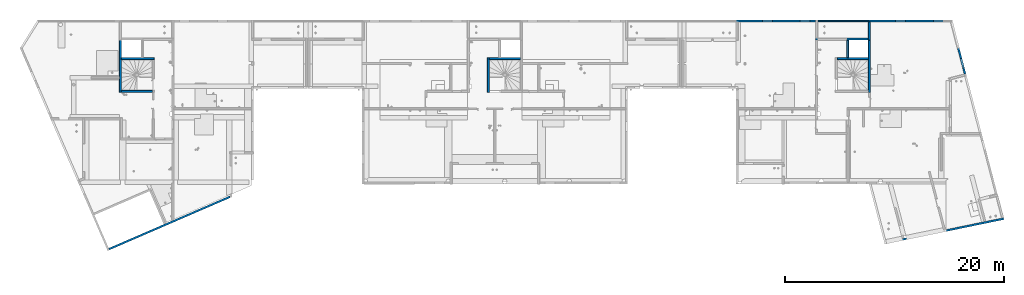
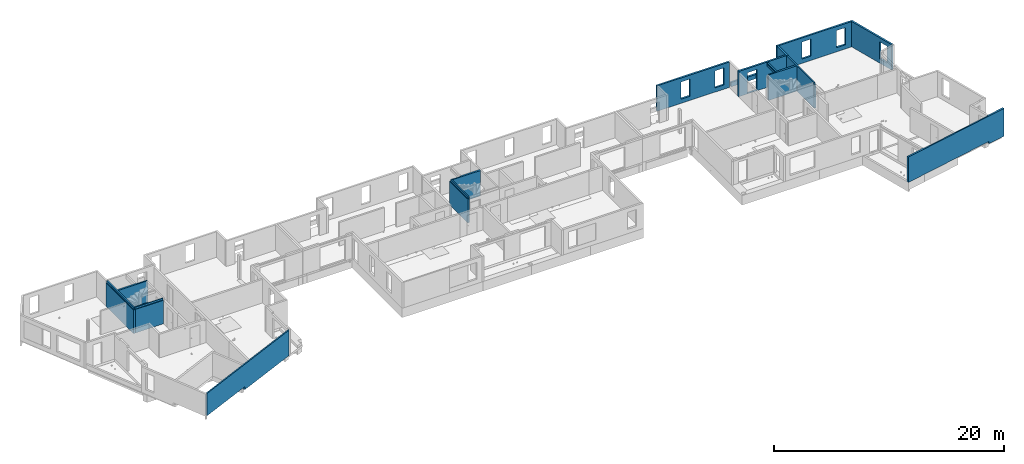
# One storey, part 19 of 34: 16 walls, 12 openings.
"""IFC2X3 building model written with IfcOpenShell, lengths in centimetres."""

from ifc_helpers import new_model, entity, si_unit, converted_unit, derived_unit, direction, frame, frame_2d, origin, origin_2d_with_axis, place, context, subcontext, project, spatial, polyline, rectangle, outline, extrude, clip, bounded_halfspace, faceted_brep, material, material_list, layer, layer_set, layer_usage, type_object, element, save


model = new_model("IFC2X3")

# Units and contexts
model_context = context("Model", 3, precision=0.001, world=origin(), true_north=direction((6.12303176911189e-17, 1.0)))
body_context = subcontext(model_context, "Body", "Model", "MODEL_VIEW")
ifc_project = project(units=[si_unit("LENGTHUNIT", "METRE", prefix="CENTI"), si_unit("AREAUNIT", "SQUARE_METRE"), si_unit("VOLUMEUNIT", "CUBIC_METRE"), converted_unit("PLANEANGLEUNIT", "DEGREE", entity("IfcRatioMeasure", 0.0174532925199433), si_unit("PLANEANGLEUNIT", "RADIAN"), dimensions=[0, 0, 0, 0, 0, 0, 0]), si_unit("MASSUNIT", "GRAM", prefix="KILO"), derived_unit("MASSDENSITYUNIT", [(si_unit("MASSUNIT", "GRAM", prefix="KILO"), 1), (si_unit("LENGTHUNIT", "METRE"), -3)]), si_unit("TIMEUNIT", "SECOND"), si_unit("FREQUENCYUNIT", "HERTZ"), si_unit("THERMODYNAMICTEMPERATUREUNIT", "DEGREE_CELSIUS"), derived_unit("THERMALTRANSMITTANCEUNIT", [(si_unit("MASSUNIT", "GRAM", prefix="KILO"), 1), (si_unit("THERMODYNAMICTEMPERATUREUNIT", "KELVIN"), -1), (si_unit("TIMEUNIT", "SECOND"), -3)]), derived_unit("VOLUMETRICFLOWRATEUNIT", [(si_unit("LENGTHUNIT", "METRE"), 3), (si_unit("TIMEUNIT", "SECOND"), -1)]), si_unit("ELECTRICCURRENTUNIT", "AMPERE"), si_unit("ELECTRICVOLTAGEUNIT", "VOLT"), si_unit("POWERUNIT", "WATT"), si_unit("FORCEUNIT", "NEWTON"), si_unit("ILLUMINANCEUNIT", "LUX"), si_unit("LUMINOUSFLUXUNIT", "LUMEN"), si_unit("LUMINOUSINTENSITYUNIT", "CANDELA"), derived_unit("USERDEFINED", [(si_unit("MASSUNIT", "GRAM", prefix="KILO"), -1), (si_unit("LENGTHUNIT", "METRE"), -2), (si_unit("TIMEUNIT", "SECOND"), 3), (si_unit("LUMINOUSFLUXUNIT", "LUMEN"), 1)]), derived_unit("LINEARVELOCITYUNIT", [(si_unit("LENGTHUNIT", "METRE"), 1), (si_unit("TIMEUNIT", "SECOND"), -1)]), si_unit("PRESSUREUNIT", "PASCAL"), derived_unit("USERDEFINED", [(si_unit("LENGTHUNIT", "METRE"), -2), (si_unit("MASSUNIT", "GRAM", prefix="KILO"), 1), (si_unit("TIMEUNIT", "SECOND"), -2)])], contexts=[model_context])

# Site, building, storey
site_placement = place(None, origin())
site = spatial("IfcSite", under=ifc_project, at=site_placement, Name="Default", CompositionType="ELEMENT")
building_placement = place(site_placement, origin())
building = spatial("IfcBuilding", under=site, at=building_placement, Name="CAGE 03", CompositionType="ELEMENT")
storey_placement = place(building_placement, frame((0.0, 0.0, 340.0)))
storey = spatial("IfcBuildingStorey", under=building, at=storey_placement, Name="R+1", CompositionType="ELEMENT", Elevation=340.0)

# Wall, openings
ifc_material_1 = material(Name="Béton, C25/30")
ifc_layer = layer(ifc_material_1, 18.0)
ifc_layer_set = layer_set([ifc_layer], Name="Mur de base:Voile BA 18")
ifc_layer_usage_1 = layer_usage(ifc_layer_set, "AXIS2", "NEGATIVE", 9.0)
wall_type_1 = type_object("IfcWallType", Name="Mur de base:Voile BA 18", PredefinedType="STANDARD", material=ifc_layer_set)
wall_1_placement = place(storey_placement, frame((11373.0570193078, 4801.46871667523, 0.0), z_axis=(0.0, 0.0, 1.0), x_axis=(-0.252679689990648, 0.967549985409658, 0.0)))
wall_1 = element("IfcWallStandardCase", 1, at=wall_1_placement, inside=storey, type_object=wall_type_1, material=ifc_layer_usage_1, Name="Mur de base:Voile BA 18", ObjectType="Mur de base:Voile BA 18", context=body_context, shape_type="SweptSolid", body=[
    extrude(outline(polyline([(506.348860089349, -9.0), (511.049634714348, 9.0), (492.445944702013, 9.0), (245.947052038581, 9.0), (0.0, 9.0), (0.0, -9.0), (241.246277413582, -9.0), (506.348860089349, -9.0)])), origin(), (0.0, 0.0, 1.0), 270.0),
])
opening_1_placement = place(wall_1_placement, origin())
element("IfcOpeningElement", 2, at=opening_1_placement, cuts=wall_1, Name="Mur de base:Voile BA 18", ObjectType="Recess", context=body_context, shape_type="SweptSolid", body=[
    extrude(rectangle(XDim=181.0, YDim=273.0, at=frame_2d((-2.1316282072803e-13, 0.0), x_axis=(0.0, 1.0))), frame((-854.500000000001, -9.0, 135.5), z_axis=(0.0, 1.0, 0.0), x_axis=(1.0, 0.0, 0.0)), (0.0, 0.0, 1.0), 1.99999999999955),
])
opening_2_placement = place(wall_1_placement, frame((-1771.9204648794, 12217.2347799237, 0.0), z_axis=(0.0, 0.0, 1.0), x_axis=(-0.252679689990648, -0.967549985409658, 0.0)))
element("IfcOpeningElement", 3, at=opening_2_placement, cuts=wall_1, Name="Mur de base:Voile BA 18", ObjectType="Opening", context=body_context, shape_type="SweptSolid", body=[
    extrude(rectangle(XDim=181.0, YDim=91.0000000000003, at=frame_2d((0.0, -2.16715534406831e-13), x_axis=(1.0, 0.0))), frame((11503.8252781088, 4939.48999217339, 135.5), z_axis=(-0.967549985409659, -0.252679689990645, 0.0), x_axis=(0.0, 0.0, 1.0)), (0.0, 0.0, 1.0), 304.8),
])

ifc_layer_usage_2 = layer_usage(ifc_layer_set, "AXIS2", "NEGATIVE", 9.0)
wall_2_placement = place(storey_placement, frame((11239.9179807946, 5284.66066607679, 0.0), z_axis=(0.0, 0.0, 1.0), x_axis=(-1.0, 0.0, 0.0)))
wall_2 = element("IfcWallStandardCase", 4, at=wall_2_placement, inside=storey, type_object=wall_type_1, material=ifc_layer_usage_2, Name="Mur de base:Voile BA 18", ObjectType="Mur de base:Voile BA 18", context=body_context, shape_type="SweptSolid", body=[
    extrude(outline(polyline([(749.552160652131, -9.0), (749.552160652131, 9.0), (740.552160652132, 9.0), (731.552160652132, 9.0), (63.5521606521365, 9.0), (0.0, 9.0), (4.70077462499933, -9.0), (63.5521606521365, -9.0), (740.552160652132, -9.0), (749.552160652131, -9.0)])), origin(), (0.0, 0.0, 1.0), 270.0),
])
opening_3_placement = place(wall_2_placement, origin())
element("IfcOpeningElement", 5, at=opening_3_placement, cuts=wall_2, Name="Mur de base:Voile BA 18", ObjectType="Recess", context=body_context, shape_type="SweptSolid", body=[
    extrude(rectangle(XDim=181.0, YDim=184.0, at=frame_2d((0.0, -5.6843418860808e-14), x_axis=(0.0, 1.0))), frame((246.55216065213, -9.0, 135.499999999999), z_axis=(0.0, 1.0, 0.0), x_axis=(1.0, 0.0, 0.0)), (0.0, 0.0, 1.0), 1.99999999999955),
])
opening_4_placement = place(wall_2_placement, frame((11239.9179807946, 5284.66066607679, 0.0), z_axis=(0.0, 0.0, 1.0), x_axis=(-1.0, 0.0, 0.0)))
element("IfcOpeningElement", 6, at=opening_4_placement, cuts=wall_2, Name="Mur de base:Voile BA 18", ObjectType="Opening", context=body_context, shape_type="SweptSolid", body=[
    extrude(rectangle(XDim=181.0, YDim=91.0000000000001, at=frame_2d((0.0, 0.0), x_axis=(0.0, 1.0))), frame((11130.8658201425, 5428.06066607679, 135.5), z_axis=(0.0, -1.0, 0.0), x_axis=(1.0, 0.0, 0.0)), (0.0, 0.0, 1.0), 304.8),
])
opening_5_placement = place(wall_2_placement, frame((11239.9179807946, 5284.66066607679, 0.0), z_axis=(0.0, 0.0, 1.0), x_axis=(-1.0, 0.0, 0.0)))
element("IfcOpeningElement", 7, at=opening_5_placement, cuts=wall_2, Name="Mur de base:Voile BA 18", ObjectType="Opening", context=body_context, shape_type="SweptSolid", body=[
    extrude(rectangle(XDim=181.0, YDim=90.9999999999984, at=frame_2d((-8.66862137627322e-13, 0.0), x_axis=(0.0, 1.0))), frame((10785.8658201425, 5428.06066607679, 135.5), z_axis=(0.0, -1.0, 0.0), x_axis=(1.0, 0.0, 0.0)), (0.0, 0.0, 1.0), 304.8),
])

# Wall
ifc_layer_usage_3 = layer_usage(ifc_layer_set, "AXIS2", "POSITIVE", -9.0)
wall_3_placement = place(storey_placement, frame((10499.3658201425, 5275.66066607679, 0.0), z_axis=(0.0, 0.0, 1.0), x_axis=(0.0, -1.0, 0.0)))
element("IfcWallStandardCase", 8, at=wall_3_placement, inside=storey, type_object=wall_type_1, material=ifc_layer_usage_3, Name="Mur de base:Voile BA 18", ObjectType="Mur de base:Voile BA 18", context=body_context, shape_type="SweptSolid", body=[
    extrude(rectangle(XDim=164.999999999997, YDim=17.9999999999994, at=frame_2d((82.4999999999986, 1.11022302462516e-13), x_axis=(-1.0, 0.0))), origin(), (0.0, 0.0, 1.0), 270.0),
])

# Wall, openings
ifc_layer_usage_4 = layer_usage(ifc_layer_set, "AXIS2", "POSITIVE", -9.0)
wall_4_placement = place(storey_placement, frame((10010.3658201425, 5284.66066607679, 0.0), z_axis=(0.0, 0.0, 1.0), x_axis=(-1.0, 0.0, 0.0)))
wall_4 = element("IfcWallStandardCase", 9, at=wall_4_placement, inside=storey, type_object=wall_type_1, material=ifc_layer_usage_4, Name="Mur de base:Voile BA 18", ObjectType="Mur de base:Voile BA 18", context=body_context, shape_type="SweptSolid", body=[
    extrude(rectangle(XDim=726.0, YDim=17.9999999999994, at=frame_2d((363.0, -3.64153152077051e-14), x_axis=(-1.0, 0.0))), origin(), (0.0, 0.0, 1.0), 270.0),
])
opening_6_placement = place(wall_4_placement, origin())
element("IfcOpeningElement", 10, at=opening_6_placement, cuts=wall_4, Name="Mur de base:Voile BA 18", ObjectType="Recess", context=body_context, shape_type="SweptSolid", body=[
    extrude(rectangle(XDim=181.0, YDim=184.0, at=frame_2d((0.0, 5.6843418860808e-14), x_axis=(0.0, 1.0))), frame((235.0, -9.0, 135.5), z_axis=(0.0, 1.0, 0.0), x_axis=(1.0, 0.0, 0.0)), (0.0, 0.0, 1.0), 1.99999999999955),
])
opening_7_placement = place(wall_4_placement, frame((10010.3658201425, 5284.66066607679, 0.0), z_axis=(0.0, 0.0, 1.0), x_axis=(-1.0, 0.0, 0.0)))
element("IfcOpeningElement", 11, at=opening_7_placement, cuts=wall_4, Name="Mur de base:Voile BA 18", ObjectType="Opening", context=body_context, shape_type="SweptSolid", body=[
    extrude(rectangle(XDim=181.0, YDim=90.9999999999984, at=frame_2d((8.66862137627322e-13, 0.0), x_axis=(0.0, 1.0))), frame((9912.86582014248, 5428.06066607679, 135.5), z_axis=(0.0, -1.0, 0.0), x_axis=(1.0, 0.0, 0.0)), (0.0, 0.0, 1.0), 304.8),
])
opening_8_placement = place(wall_4_placement, frame((10010.3658201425, 5284.66066607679, 0.0), z_axis=(0.0, 0.0, 1.0), x_axis=(-1.0, 0.0, 0.0)))
element("IfcOpeningElement", 12, at=opening_8_placement, cuts=wall_4, Name="Mur de base:Voile BA 18", ObjectType="Opening", context=body_context, shape_type="SweptSolid", body=[
    extrude(rectangle(XDim=181.0, YDim=90.9999999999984, at=frame_2d((8.66862137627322e-13, 0.0), x_axis=(0.0, 1.0))), frame((9568.86582014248, 5428.06066607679, 135.5), z_axis=(0.0, -1.0, 0.0), x_axis=(1.0, 0.0, 0.0)), (0.0, 0.0, 1.0), 304.8),
])

ifc_layer_usage_5 = layer_usage(ifc_layer_set, "AXIS2", "POSITIVE", -9.0)
wall_5_placement = place(storey_placement, frame((10490.3658201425, 5119.66066607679, 0.0), z_axis=(0.0, 0.0, 1.0), x_axis=(-1.0, 0.0, 0.0)))
wall_5 = element("IfcWallStandardCase", 13, at=wall_5_placement, inside=storey, type_object=wall_type_1, material=ifc_layer_usage_5, Name="Mur de base:Voile BA 18", ObjectType="Mur de base:Voile BA 18", context=body_context, shape_type="SweptSolid", body=[
    extrude(rectangle(XDim=480.0, YDim=17.9999999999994, at=frame_2d((240.0, -1.90958360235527e-13), x_axis=(-1.0, 0.0))), origin(), (0.0, 0.0, 1.0), 270.0),
])
opening_9_placement = place(wall_5_placement, origin())
element("IfcOpeningElement", 14, at=opening_9_placement, cuts=wall_5, Name="Mur de base:Voile BA 18", ObjectType="Opening", context=body_context, shape_type="SweptSolid", body=[
    extrude(rectangle(XDim=227.0, YDim=17.9999999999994, at=frame_2d((0.0, 0.0), x_axis=(0.0, 1.0))), frame((189.0, 9.0, 113.5), z_axis=(0.0, 1.0, 0.0), x_axis=(-1.0, 0.0, 0.0)), (0.0, 0.0, 1.0), 160.0),
])
opening_10_placement = place(wall_5_placement, frame((10490.3658201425, 5119.66066607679, 0.0), z_axis=(0.0, 0.0, 1.0), x_axis=(-1.0, 0.0, 0.0)))
element("IfcOpeningElement", 15, at=opening_10_placement, cuts=wall_5, Name="Mur de base:Voile BA 18", ObjectType="Opening", context=body_context, shape_type="SweptSolid", body=[
    extrude(rectangle(XDim=221.0, YDim=95.0000000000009, at=frame_2d((8.66862137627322e-13, -5.6843418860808e-14), x_axis=(0.0, 1.0))), frame((10145.8658201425, 5263.06066607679, 115.5), z_axis=(0.0, -1.0, 0.0), x_axis=(1.0, 0.0, 0.0)), (0.0, 0.0, 1.0), 304.8),
])

# Wall, opening
ifc_layer_usage_6 = layer_usage(ifc_layer_set, "AXIS2", "NEGATIVE", 9.0)
wall_6_placement = place(storey_placement, frame((10301.3658201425, 5110.66066607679, 227.0), z_axis=(0.0, 0.0, 1.0), x_axis=(0.0, -1.0, 0.0)))
wall_6 = element("IfcWallStandardCase", 16, at=wall_6_placement, inside=storey, type_object=wall_type_1, material=ifc_layer_usage_6, Name="Mur de base:Voile BA 18", ObjectType="Mur de base:Voile BA 18", context=body_context, shape_type="Clipping", body=[
    clip(clip(extrude(rectangle(XDim=160.000000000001, YDim=17.9999999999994, at=frame_2d((80.0000000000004, 0.0), x_axis=(-1.0, 0.0))), origin(), (0.0, 0.0, 1.0), 36.0), bounded_halfspace(frame((160.0, -6.0, 23.0), z_axis=(0.0, 0.0, -1.0), x_axis=(-1.0, 0.0, 0.0)), True, frame((160.0, -6.0, 23.0), z_axis=(0.0, 0.0, -1.0), x_axis=(-1.0, 0.0, 0.0)), polyline([(0.0, 0.0), (0.0, -3.0), (160.0, -3.0), (160.0, 0.0), (0.0, 0.0)]))), bounded_halfspace(frame((0.0, -6.0, 23.0), z_axis=(0.0, 1.0, 0.0), x_axis=(0.0, 0.0, 1.0)), True, frame((0.0, -6.0, 23.0), z_axis=(0.0, 1.0, 0.0), x_axis=(0.0, 0.0, 1.0)), polyline([(0.0, 0.0), (13.0, 0.0), (13.0, 160.0), (0.0, 160.0), (0.0, 0.0)]))),
])
opening_11_placement = place(wall_6_placement, frame((5110.66066607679, -10301.3658201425, -227.0), z_axis=(0.0, 0.0, 1.0), x_axis=(0.0, 1.0, 0.0)))
element("IfcOpeningElement", 17, at=opening_11_placement, cuts=wall_6, Name="Mur de base:Voile BA 18", ObjectType="Opening", context=body_context, shape_type="SweptSolid", body=[
    extrude(rectangle(XDim=227.0, YDim=160.0, at=frame_2d((0.0, 0.0), x_axis=(0.0, 1.0))), frame((10157.9658201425, 5030.66066607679, 113.5), z_axis=(1.0, 0.0, 0.0), x_axis=(0.0, 1.0, 0.0)), (0.0, 0.0, 1.0), 304.8),
])

ifc_layer_usage_7 = layer_usage(ifc_layer_set, "AXIS2", "NEGATIVE", 9.0)
wall_7_placement = place(storey_placement, frame((10028.3658201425, 5284.66066607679, 0.0)))
wall_7 = element("IfcWallStandardCase", 18, at=wall_7_placement, inside=storey, type_object=wall_type_1, material=ifc_layer_usage_7, Name="Mur de base:Voile BA 18", ObjectType="Mur de base:Voile BA 18", context=body_context, shape_type="SweptSolid", body=[
    extrude(rectangle(XDim=462.000000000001, YDim=17.9999999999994, at=frame_2d((231.0, 2.99316127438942e-13), x_axis=(-1.0, 0.0))), origin(), (0.0, 0.0, 1.0), 45.0),
])
opening_12_placement = place(wall_7_placement, origin())
element("IfcOpeningElement", 19, at=opening_12_placement, cuts=wall_7, Name="Mur de base:Voile BA 18", ObjectType="Recess", context=body_context, shape_type="SweptSolid", body=[
    extrude(rectangle(XDim=181.0, YDim=184.0, at=origin_2d_with_axis()), frame((-253.0, 7.0, 135.5), z_axis=(0.0, 1.0, 0.0), x_axis=(0.0, 0.0, -1.0)), (0.0, 0.0, 1.0), 1.99999999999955),
])

# Walls
ifc_material_2 = material(Name="Béton, panneaux préfa 30/37")
ifc_material_list_1 = material_list([ifc_material_2, ifc_material_1, ifc_material_2])
wall_type_2 = type_object("IfcWallType", Name="Mur de base:premur 18", PredefinedType="NOTDEFINED")
wall_8_placement = place(storey_placement, frame((3672.36582014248, 4941.66066607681, 0.0)))
element("IfcWall", 20, at=wall_8_placement, inside=storey, type_object=wall_type_2, material=ifc_material_list_1, Name="Mur de base:premur 18", ObjectType="Mur de base:premur 18", context=body_context, shape_type="Brep", body=[
    faceted_brep([(0.0, -9.0, 0.0), (282.0, -9.0, 0.0), (294.500000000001, -9.0, 0.0), (300.0, -9.0, 0.0), (300.0, -9.0, 250.0), (294.5, -9.0, 250.0), (294.5, -9.0, 270.0), (282.0, -9.0, 270.0), (0.0, -9.0, 270.0), (300.0, 9.0, 0.0), (195.0, 9.0, 0.0), (0.0, 9.0, 0.0), (0.0, 9.0, 270.0), (195.0, 9.0, 270.0), (195.0, 9.0, 250.0), (300.0, 9.0, 250.0), (294.5, 3.50000000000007, 270.0), (195.0, 3.50000000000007, 270.0), (195.0, 3.50000000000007, 250.0), (294.5, 3.50000000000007, 250.0)], [[[0, 1, 2, 3, 4, 5, 6, 7, 8]], [[9, 10, 11, 12, 13, 14, 15]], [[3, 2, 1, 0, 11, 10, 9]], [[12, 8, 7, 6, 16, 17, 13]], [[3, 9, 15, 4]], [[0, 8, 12, 11]], [[18, 19, 5, 4, 15, 14]], [[19, 18, 17, 16]], [[19, 16, 6, 5]], [[17, 18, 14, 13]]]),
])
ifc_material_list_2 = material_list([ifc_material_2, ifc_material_1, ifc_material_2])
wall_9_placement = place(storey_placement, frame((3663.36582014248, 5110.66066607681, 0.0), z_axis=(0.0, 0.0, 1.0), x_axis=(0.0, -1.0, 0.0)))
element("IfcWall", 21, at=wall_9_placement, inside=storey, type_object=wall_type_2, material=ifc_material_list_2, Name="Mur de base:premur 18", ObjectType="Mur de base:premur 18", context=body_context, shape_type="Brep", body=[
    faceted_brep([(0.0, -9.0, 0.0), (178.0, -9.0, 0.0), (335.5, -9.0, 0.0), (351.5, -9.0, 0.0), (472.5, -9.0, 0.0), (478.0, -9.0, 0.0), (478.0, -9.0, 250.0), (351.5, -9.0, 250.0), (335.500000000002, -9.0, 250.0), (312.500000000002, -9.0, 250.0), (0.0, -9.0, 250.0), (478.0, 9.0, 0.0), (472.5, 9.0, 0.0), (460.0, 9.0, 0.0), (178.0, 9.0, 0.0), (160.0, 9.0, 0.0), (0.0, 9.0, 0.0), (0.0, 9.0, 270.0), (160.0, 9.0, 270.0), (178.0, 9.0, 270.0), (460.0, 9.0, 270.0), (472.5, 9.0, 270.0), (472.5, 9.0, 250.0), (478.0, 9.0, 250.0), (0.0, -3.50000000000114, 0.0), (0.0, -3.50000000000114, 270.0), (472.5, -3.50000000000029, 270.0), (0.0, -3.50000000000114, 250.0), (472.5, -3.50000000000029, 250.0)], [[[0, 1, 2, 3, 4, 5, 6, 7, 8, 9, 10]], [[11, 12, 13, 14, 15, 16, 17, 18, 19, 20, 21, 22, 23]], [[5, 4, 3, 2, 1, 0, 24, 16, 15, 14, 13, 12, 11]], [[21, 20, 19, 18, 17, 25, 26]], [[5, 11, 23, 6]], [[17, 16, 24, 0, 10, 27, 25]], [[28, 27, 10, 9, 8, 7, 6, 23, 22]], [[26, 28, 22, 21]], [[27, 28, 26, 25]]]),
])
ifc_material_list_3 = material_list([ifc_material_2, ifc_material_1, ifc_material_2])
wall_10_placement = place(storey_placement, frame((3672.36582014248, 4641.66066607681, 0.0)))
element("IfcWall", 22, at=wall_10_placement, inside=storey, type_object=wall_type_2, material=ifc_material_list_3, Name="Mur de base:premur 18", ObjectType="Mur de base:premur 18", context=body_context, shape_type="Brep", body=[
    faceted_brep([(0.0, -9.0, 0.0), (282.0, -9.0, 0.0), (282.0, -9.0, 250.0), (0.0, -9.0, 250.0), (282.0, 9.0, 0.0), (141.0, 9.0, 0.0), (0.0, 9.0, 0.0), (0.0, 9.0, 270.0), (141.0, 9.0, 270.0), (141.0, 9.0, 250.0), (282.0, 9.0, 250.0), (282.0, 9.0, 210.0), (0.0, -3.50000000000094, 0.0), (282.0, 3.50000000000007, 0.0), (282.0, -3.50000000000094, 0.0), (0.0, -3.50000000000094, 270.0), (282.0, -3.50000000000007, 270.0), (282.0, 3.50000000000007, 270.0), (141.0, 3.50000000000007, 270.0), (0.0, -3.50000000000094, 250.0), (282.0, 3.50000000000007, 250.0), (282.0, -3.50000000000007, 250.0), (141.0, 3.50000000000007, 250.0)], [[[0, 1, 2, 3]], [[4, 5, 6, 7, 8, 9, 10, 11]], [[1, 0, 12, 6, 5, 4, 13, 14]], [[15, 16, 17, 18, 8, 7]], [[7, 6, 12, 0, 3, 19, 15]], [[1, 14, 13, 4, 11, 10, 20, 17, 16, 21, 2]], [[3, 2, 21, 19]], [[16, 15, 19, 21]], [[22, 20, 10, 9]], [[18, 22, 9, 8]], [[22, 18, 17, 20]]]),
])
ifc_material_list_4 = material_list([ifc_material_2, ifc_material_1, ifc_material_2])
wall_11_placement = place(storey_placement, frame((3560.31790700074, 3202.58674002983, 0.0), z_axis=(0.0, 0.0, 1.0), x_axis=(0.917772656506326, 0.39710622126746, 0.0)))
element("IfcWall", 23, at=wall_11_placement, inside=storey, type_object=wall_type_2, material=ifc_material_list_4, Name="Mur de base:premur 18", ObjectType="Mur de base:premur 18", context=body_context, shape_type="Brep", body=[
    faceted_brep([(548.500000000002, -9.0, 0.0), (1196.89113568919, -9.0, 0.0), (1196.89113568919, -9.0, 270.0), (0.0, -9.0, 270.0), (0.0, -9.0, 32.0), (548.500000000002, -9.0, 32.0), (1204.67946097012, 9.0, 0.0), (648.986287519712, 9.0, 0.0), (629.373587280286, 9.0, 0.0), (566.500000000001, 9.0, 0.0), (548.500000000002, 9.0, 0.0), (548.500000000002, 9.0, 32.0), (0.0, 9.0, 32.0), (0.0, 9.0, 250.0), (548.499999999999, 9.0, 250.0), (566.5, 9.0, 250.0), (629.373587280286, 9.0, 250.0), (648.986287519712, 9.0, 250.0), (1204.67946097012, 9.0, 250.0), (1202.29969491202, 3.49999999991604, 270.0), (0.0, 3.50000000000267, 270.0), (1202.29969491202, 3.49999999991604, 250.0), (0.0, 3.50000000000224, 250.0)], [[[0, 1, 2, 3, 4, 5]], [[6, 7, 8, 9, 10, 11, 12, 13, 14, 15, 16, 17, 18]], [[3, 2, 19, 20]], [[2, 1, 6, 18, 21, 19]], [[22, 21, 18, 17, 16, 15, 14, 13]], [[21, 22, 20, 19]], [[1, 0, 10, 9, 8, 7, 6]], [[5, 4, 12, 11]], [[0, 5, 11, 10]], [[4, 3, 20, 22, 13, 12]]]),
])
wall_12_placement = place(storey_placement, frame((7022.36582014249, 4632.6606660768, 0.0), z_axis=(0.0, 0.0, 1.0), x_axis=(0.0, 1.0, 0.0)))
element("IfcWall", 24, at=wall_12_placement, inside=storey, type_object=wall_type_2, Name="Mur de base:premur 18", ObjectType="Mur de base:premur 18", context=body_context, shape_type="Brep", body=[
    faceted_brep([(0.0, -9.0, 0.0), (5.50000000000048, -9.0, 0.0), (300.0, -9.0, 0.0), (312.499999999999, -9.0, 0.0), (318.0, -9.0, 0.0), (318.0, -9.0, 250.0), (312.499999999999, -9.0, 250.0), (312.499999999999, -9.0, 270.0), (300.0, -9.0, 270.0), (12.500000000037, -9.0, 270.0), (5.50000000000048, -9.0, 270.0), (5.50000000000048, -9.0, 250.0), (0.0, -9.0, 250.0), (0.0, -9.0, 210.0), (318.0, 9.0, 0.0), (0.0, 9.0, 0.0), (0.0, 9.0, 250.0), (318.0, 9.0, 250.0), (312.499999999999, 3.50000000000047, 270.0), (5.50000000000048, 3.50000000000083, 270.0), (5.50000000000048, 3.50000000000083, 250.0), (312.499999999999, 3.50000000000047, 250.0)], [[[0, 1, 2, 3, 4, 5, 6, 7, 8, 9, 10, 11, 12, 13]], [[14, 15, 16, 17]], [[4, 3, 2, 1, 0, 15, 14]], [[10, 9, 8, 7, 18, 19]], [[4, 14, 17, 5]], [[15, 0, 13, 12, 16]], [[20, 21, 6, 5, 17, 16, 12, 11]], [[21, 18, 7, 6]], [[21, 20, 19, 18]], [[19, 20, 11, 10]]]),
])
wall_13_placement = place(storey_placement, frame((7031.36582014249, 4941.6606660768, 0.0)))
element("IfcWall", 25, at=wall_13_placement, inside=storey, type_object=wall_type_2, Name="Mur de base:premur 18", ObjectType="Mur de base:premur 18", context=body_context, shape_type="Brep", body=[
    faceted_brep([(0.0, -9.0, 0.0), (282.0, -9.0, 0.0), (282.0, -9.0, 270.0), (0.0, -9.0, 270.0), (282.0, 9.0, 0.0), (87.0, 9.0, 0.0), (0.0, 9.0, 0.0), (0.0, 9.0, 250.0), (87.0, 9.0, 250.0), (87.0, 9.0, 270.0), (282.0, 9.0, 270.0), (0.0, 3.50000000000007, 0.0), (87.0, 3.50000000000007, 270.0), (0.0, 3.50000000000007, 270.0), (0.0, 3.50000000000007, 250.0), (87.0, 3.50000000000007, 250.0)], [[[0, 1, 2, 3]], [[4, 5, 6, 7, 8, 9, 10]], [[1, 0, 11, 6, 5, 4]], [[3, 2, 10, 9, 12, 13]], [[0, 3, 13, 14, 7, 6, 11]], [[2, 1, 4, 10]], [[15, 8, 7, 14]], [[12, 15, 14, 13]], [[15, 12, 9, 8]]]),
])
wall_14_placement = place(storey_placement, frame((10208.3658201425, 4941.66066607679, 0.0)))
element("IfcWall", 26, at=wall_14_placement, inside=storey, type_object=wall_type_2, Name="Mur de base:premur 18", ObjectType="Mur de base:premur 18", context=body_context, shape_type="Brep", body=[
    faceted_brep([(0.0, -9.0, 0.0), (282.0, -9.0, 0.0), (282.0, -9.0, 270.0), (0.0, -9.0, 270.0), (282.0, 9.0, 0.0), (87.0, 9.0, 0.0), (0.0, 9.0, 0.0), (0.0, 9.0, 250.0), (87.0, 9.0, 250.0), (87.0, 9.0, 270.0), (282.0, 9.0, 270.0), (0.0, 3.50000000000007, 0.0), (87.0, 3.50000000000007, 270.0), (0.0, 3.50000000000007, 270.0), (0.0, 3.50000000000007, 250.0), (87.0, 3.50000000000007, 250.0)], [[[0, 1, 2, 3]], [[4, 5, 6, 7, 8, 9, 10]], [[1, 0, 11, 6, 5, 4]], [[3, 2, 10, 9, 12, 13]], [[0, 3, 13, 14, 7, 6, 11]], [[2, 1, 4, 10]], [[14, 15, 8, 7]], [[12, 15, 14, 13]], [[15, 12, 9, 8]]]),
])
wall_15_placement = place(storey_placement, frame((10637.7468620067, 3255.95402323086, -25.0), z_axis=(0.0, 0.0, 1.0), x_axis=(0.979414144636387, 0.201861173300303, 0.0)))
element("IfcWall", 27, at=wall_15_placement, inside=storey, type_object=wall_type_2, Name="Mur de base:premur 18", ObjectType="Mur de base:premur 18", context=body_context, shape_type="Brep", body=[
    faceted_brep([(1112.01416291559, -9.0, 0.0), (1112.01416291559, -9.0, 295.0), (0.0, -9.0, 295.0), (0.0, -9.0, 25.0), (0.940291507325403, -9.0, 25.0), (187.150497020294, -9.0, 25.0), (577.320341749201, -9.0, 25.0), (938.194821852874, -9.0, 25.0), (938.247060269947, -9.0, 25.0), (938.247060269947, -9.0, 0.0), (1112.01416291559, 9.0, 295.0), (1112.01416291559, 9.0, 0.0), (946.789185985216, 9.0, 0.0), (938.247060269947, 9.0, 0.0), (938.247060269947, 9.0, 2.0), (938.247060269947, 9.0, 25.0), (938.194821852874, 9.0, 25.0), (928.764643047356, 9.0, 25.0), (577.320341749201, 9.0, 25.0), (569.775829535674, 9.0, 25.0), (551.751286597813, 9.0, 25.0), (185.252246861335, 9.0, 25.0), (167.227703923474, 9.0, 25.0), (0.0, 9.0, 25.0), (0.0, 9.0, 295.0), (167.227703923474, 9.0, 295.0), (185.252246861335, 9.0, 295.0), (185.252246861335, 9.0, 275.0), (551.751286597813, 9.0, 275.0), (569.775829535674, 9.0, 275.0), (928.764643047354, 9.0, 275.0), (928.764643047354, 9.0, 295.0), (946.789185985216, 9.0, 295.0), (185.53955815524, 3.50000000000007, 275.0), (929.051954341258, 3.49999999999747, 275.0), (929.051954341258, 3.49999999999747, 295.0), (185.53955815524, 3.50000000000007, 295.0), (938.247060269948, 0.0, 0.0)], [[[0, 1, 2, 3, 4, 5, 6, 7, 8, 9]], [[10, 11, 12, 13, 14, 15, 16, 17, 18, 19, 20, 21, 22, 23, 24, 25, 26, 27, 28, 29, 30, 31, 32]], [[33, 34, 30, 29, 28, 27]], [[34, 35, 31, 30]], [[34, 33, 36, 35]], [[36, 33, 27, 26]], [[3, 23, 22, 21, 20, 19, 18, 17, 16, 15, 8, 7, 6, 5, 4]], [[1, 0, 11, 10]], [[2, 1, 10, 32, 31, 35, 36, 26, 25, 24]], [[3, 2, 24, 23]], [[9, 8, 15, 14, 13, 37]], [[0, 9, 37, 13, 12, 11]]]),
])
wall_16_placement = place(storey_placement, frame((10499.3658201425, 5110.66066607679, 0.0), z_axis=(0.0, 0.0, 1.0), x_axis=(0.0, -1.0, 0.0)))
element("IfcWall", 28, at=wall_16_placement, inside=storey, type_object=wall_type_2, Name="Mur de base:premur 18", ObjectType="Mur de base:premur 18", context=body_context, shape_type="Brep", body=[
    faceted_brep([(0.0, -9.0, 0.0), (160.0, -9.0, 0.0), (178.0, -9.0, 0.0), (460.0, -9.0, 0.0), (472.500000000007, -9.0, 0.0), (478.0, -9.0, 0.0), (478.0, -9.0, 250.0), (472.500000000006, -9.0, 250.0), (472.500000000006, -9.0, 270.0), (460.0, -9.0, 270.0), (178.0, -9.0, 270.0), (160.0, -9.0, 270.0), (0.0, -9.0, 270.0), (478.0, 9.0, 0.0), (472.500000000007, 9.0, 0.0), (178.0, 9.0, 0.0), (0.0, 9.0, 0.0), (0.0, 9.0, 250.0), (223.0, 9.0, 250.0), (306.0, 9.0, 250.0), (478.0, 9.0, 250.0), (0.0, 3.49999999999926, 0.0), (472.500000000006, 3.49999999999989, 270.0), (0.0, 3.49999999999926, 270.0), (0.0, 3.49999999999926, 250.0), (472.500000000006, 3.49999999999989, 250.0)], [[[0, 1, 2, 3, 4, 5, 6, 7, 8, 9, 10, 11, 12]], [[13, 14, 15, 16, 17, 18, 19, 20]], [[5, 4, 3, 2, 1, 0, 21, 16, 15, 14, 13]], [[12, 11, 10, 9, 8, 22, 23]], [[0, 12, 23, 24, 17, 16, 21]], [[5, 13, 20, 6]], [[24, 25, 7, 6, 20, 19, 18, 17]], [[25, 22, 8, 7]], [[25, 24, 23, 22]]]),
])

save(model, "model.ifc")
